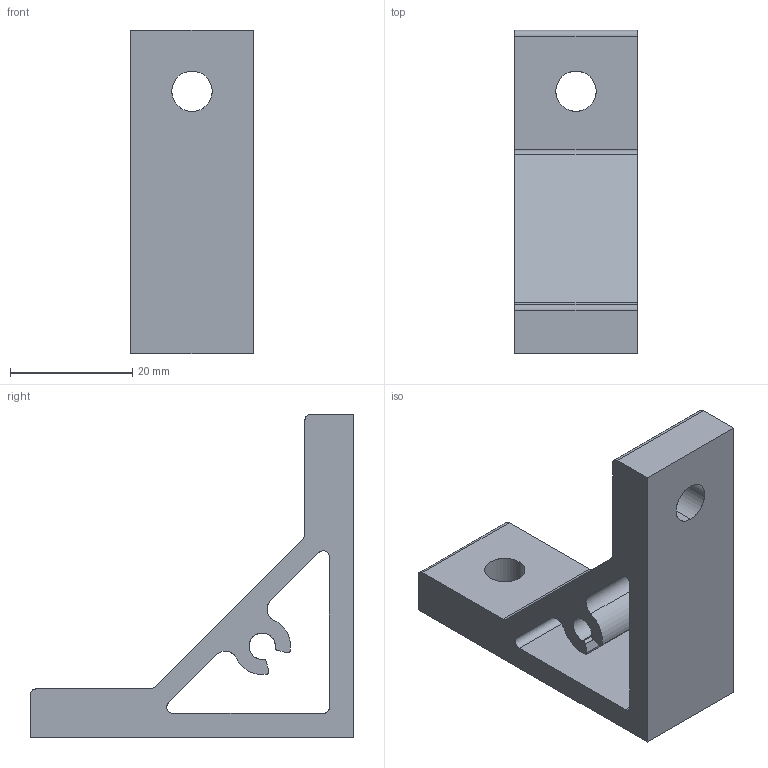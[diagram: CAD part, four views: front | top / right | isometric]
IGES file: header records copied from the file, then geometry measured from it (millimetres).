
Start section: SolidWorks IGES file using analytic representation for surfaces
Global section: file name: C:\Users\admin\Desktop\IGES\J3ARN.igs; native system: SolidWorks 2014; preprocessor: SolidWorks 2014; author: admin_pc; date: 170524.165308; units: millimetre
Bounding box: 20 x 53 x 53 mm (x, y, z)
Surface area: 7912.7 mm2 (no closed solid volume)
Topology: 0 solids, 0 shells, 40 faces, 558 edges, 558 vertices
Faces by surface type: revolution 25, bspline 15
